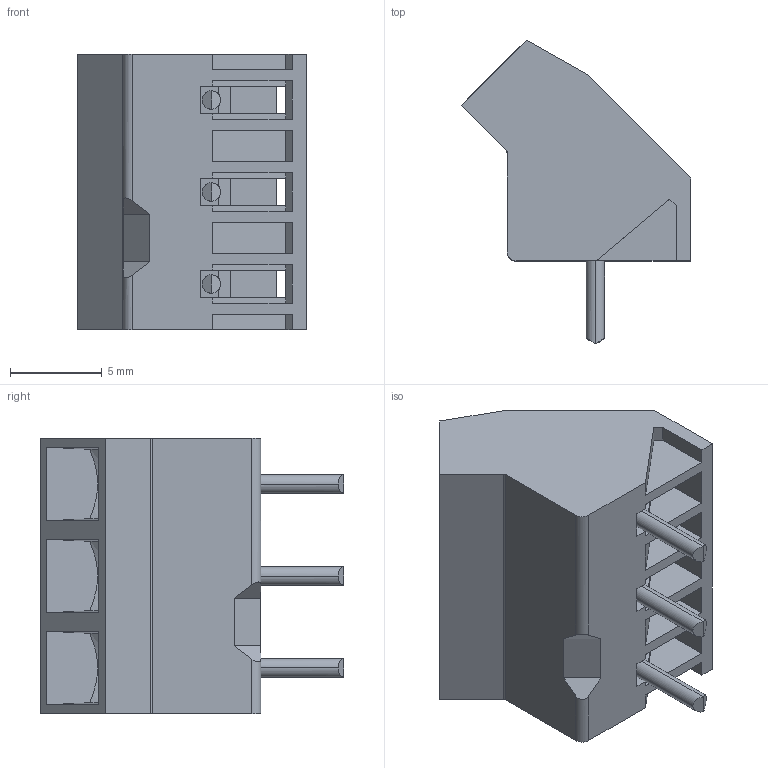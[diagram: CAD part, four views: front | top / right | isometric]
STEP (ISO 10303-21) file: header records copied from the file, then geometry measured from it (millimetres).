
FILE_DESCRIPTION (( 'STEP AP214' ), '1' );
FILE_NAME ('974-FB-03.STEP', '2009-02-19T14:12:17', ( 'weco' ), ( 'weco' ), 'SwSTEP 2.0', 'SolidWorks 2007', '' );
FILE_SCHEMA (( 'AUTOMOTIVE_DESIGN' ));
Length unit declared in the file: millimetre
Products named in the file (1): 974-FB-03
Bounding box: 12.5 x 16.5 x 15 mm (x, y, z)
Surface area: 1374.4 mm2 (no closed solid volume)
Topology: 0 solids, 16 shells, 311 faces, 779 edges, 505 vertices
Faces by surface type: plane 237, cylinder 48, cone 26
Entity records: 9437 total; most frequent: CARTESIAN_POINT 1935, ORIENTED_EDGE 1555, DIRECTION 1438, EDGE_CURVE 779, VECTOR 596, LINE 596, VERTEX_POINT 505, AXIS2_PLACEMENT_3D 421
